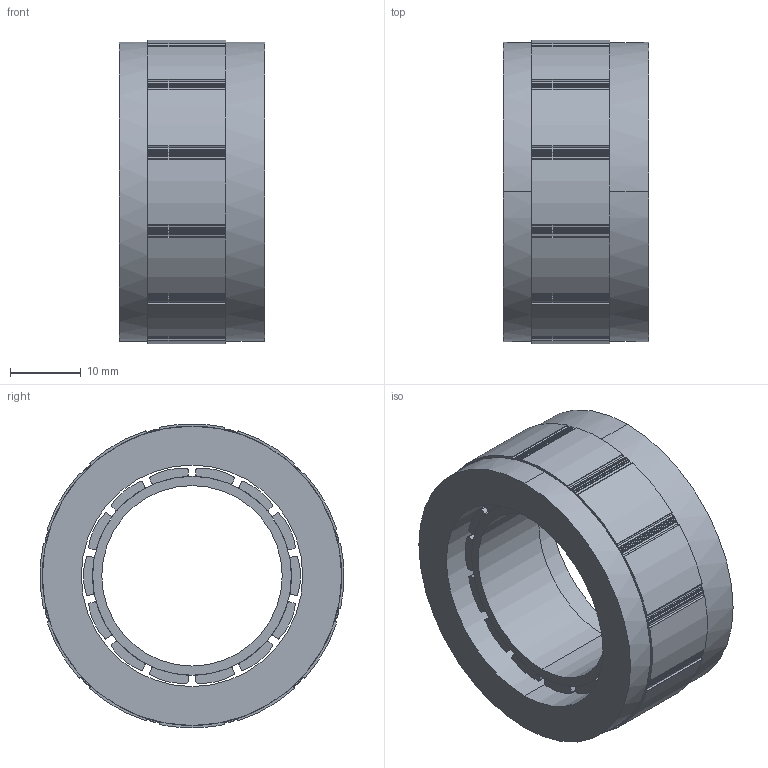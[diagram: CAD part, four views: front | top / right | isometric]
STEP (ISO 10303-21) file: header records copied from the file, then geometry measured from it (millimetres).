
FILE_DESCRIPTION (( 'STEP AP203' ), '1' );
FILE_NAME ('307092003无框力矩电机（FMK04311-0008-3725N-7DP02）-V1.0.STEP', '2025-08-22T05:58:17', ( '' ), ( '' ), 'SwSTEP 2.0', 'SolidWorks 2023', '' );
FILE_SCHEMA (( 'CONFIG_CONTROL_DESIGN' ));
Length unit declared in the file: millimetre
Products named in the file (1): 307092003无框力矩电机（FMK04311-0008-3725N-7DP02）-V1.0
Bounding box: 20.5 x 42.89 x 42.94 mm (x, y, z)
Volume: 15961.2 mm3; surface area: 10833.8 mm2
Topology: 16 solids, 16 shells, 443 faces, 1203 edges, 802 vertices
Faces by surface type: cylinder 311, plane 132
Entity records: 14362 total; most frequent: DIRECTION 2741, CARTESIAN_POINT 2449, ORIENTED_EDGE 2406, EDGE_CURVE 1203, AXIS2_PLACEMENT_3D 1094, VERTEX_POINT 802, CIRCLE 650, LINE 553
